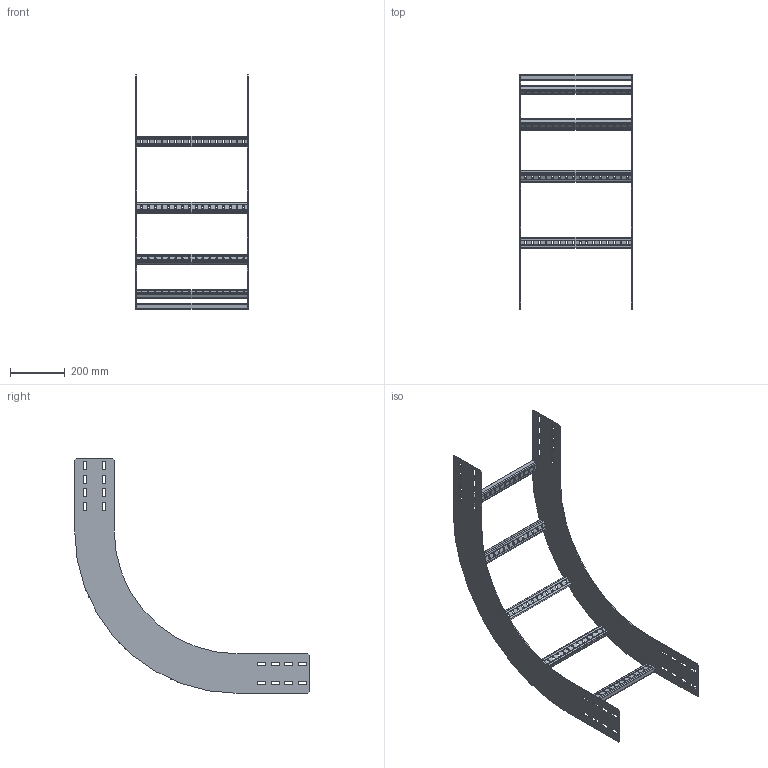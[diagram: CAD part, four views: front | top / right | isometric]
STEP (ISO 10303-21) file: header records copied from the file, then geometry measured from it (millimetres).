
FILE_DESCRIPTION(('Creo Elements/Direct Modeling STEP Export'),'2;1');
FILE_NAME('WPIR15-40-90-45.stp','2016-06-01T14:24:09',(''),(''),'PTC Creo Elements/Direct Modeling STEP processor for AP214 (Solid Model)','PTC Creo Elements/Direct Modeling 19.0C 15-Aug-2015 (C) Parametric Technology GmbH','');
FILE_SCHEMA(('AUTOMOTIVE_DESIGN { 1 0 10303 214 1 1 1 1 }'));
Length unit declared in the file: millimetre
Products named in the file (3): WPIBG150_450; WPHBS40; WPIR15-40-90-45
Assembly tree (7 placements, depth 2):
  WPIR15-40-90-45
    WPHBS40  x5
    WPIBG150_450  x2
Bounding box: 411 x 860 x 860 mm (x, y, z)
Volume: 1437286.5 mm3; surface area: 1193560.8 mm2
Topology: 7 solids, 7 shells, 676 faces, 1986 edges, 1324 vertices
Faces by surface type: plane 422, cylinder 254
Entity records: 6260 total; most frequent: CARTESIAN_POINT 1079, ORIENTED_EDGE 1068, DIRECTION 1016, EDGE_CURVE 534, VECTOR 430, LINE 430, VERTEX_POINT 356, AXIS2_PLACEMENT_3D 293
